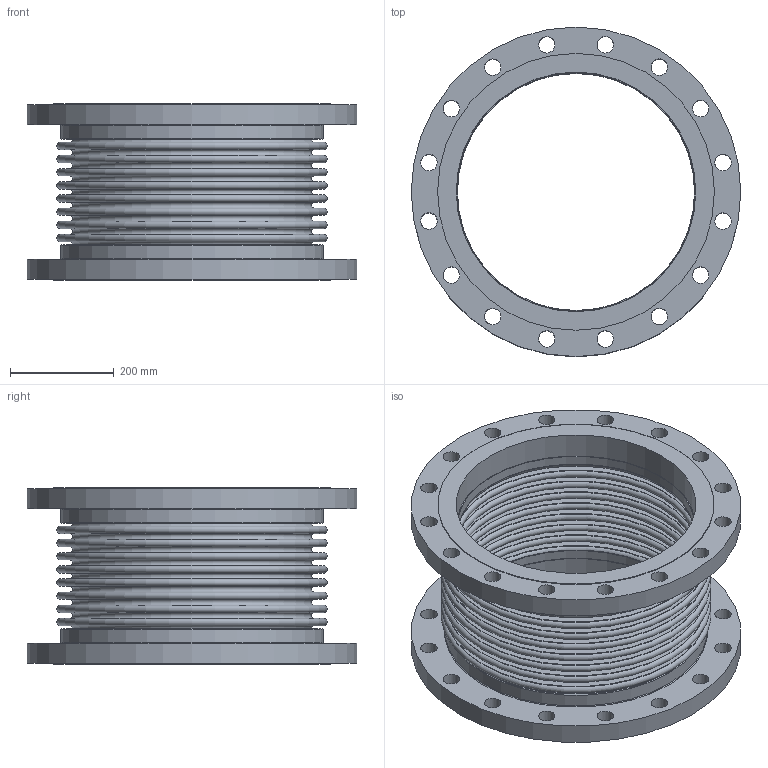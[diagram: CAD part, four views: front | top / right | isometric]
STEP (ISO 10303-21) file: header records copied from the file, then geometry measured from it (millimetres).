
FILE_DESCRIPTION(/* description */ ('EXPANSION JOINT,SINGLE, FLANGED ENDS,18 INCH','CAx-IF Rec.Pracs.---Representation and Presentation of Product Manufacturing Information (PMI)---4.0---2014-10-13'),/* implementation_level */ '2;1');
FILE_NAME(/* name */ 'US-18-8-150S-FLANGED ENDS.stp',/* time_stamp */ '2026-07-31T17:37:09-05:00',/* author */ ('Guadalupe'),/* organization */ (''),/* preprocessor_version */ 'ST-DEVELOPER v20.1',/* originating_system */ 'Autodesk Inventor 2026',/* authorisation */ '');
FILE_SCHEMA (('AP242_MANAGED_MODEL_BASED_3D_ENGINEERING_MIM_LF { 1 0 10303 442 2 1 4 }'));
Length unit declared in the file: inch
Products named in the file (3): 18-150S; 18-150S-02; 18-150S-01
Assembly tree (3 placements, depth 2):
  18-150S
    18-150S-02  x2
    18-150S-01
Bounding box: 635 x 635 x 339.34 mm (x, y, z)
Volume: 13928535.2 mm3; surface area: 3073611.9 mm2
Topology: 5 solids, 5 shells, 128 faces, 246 edges, 164 vertices
Faces by surface type: plane 46, cylinder 44, torus 38
Full cylindrical faces by diameter (mm): 31.75 x32, 457.2 x2, 460.248 x2, 461.772 x2, 504.952 x2, 533.4 x2, 635 x2
Entity records: 2870 total; most frequent: DIRECTION 578, CARTESIAN_POINT 425, ORIENTED_EDGE 360, AXIS2_PLACEMENT_3D 277, EDGE_CURVE 180, EDGE_LOOP 176, CIRCLE 156, VERTEX_POINT 120
